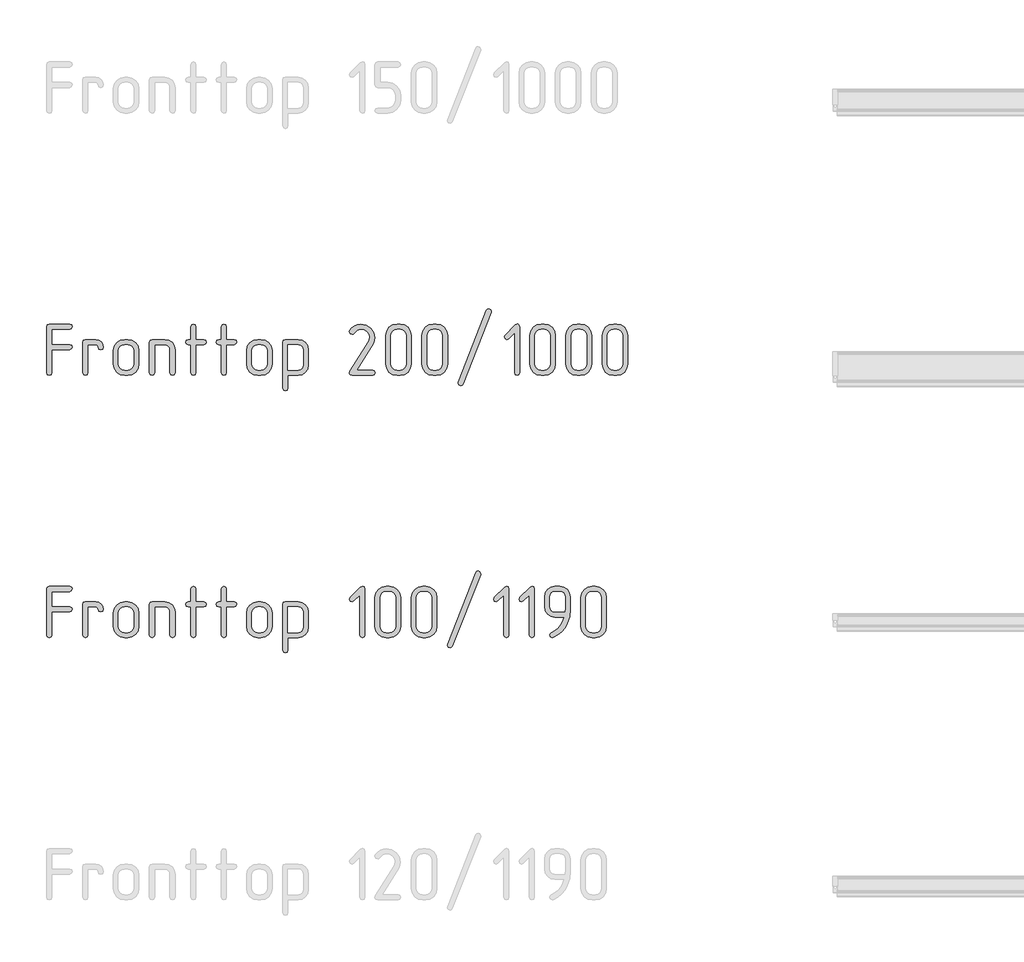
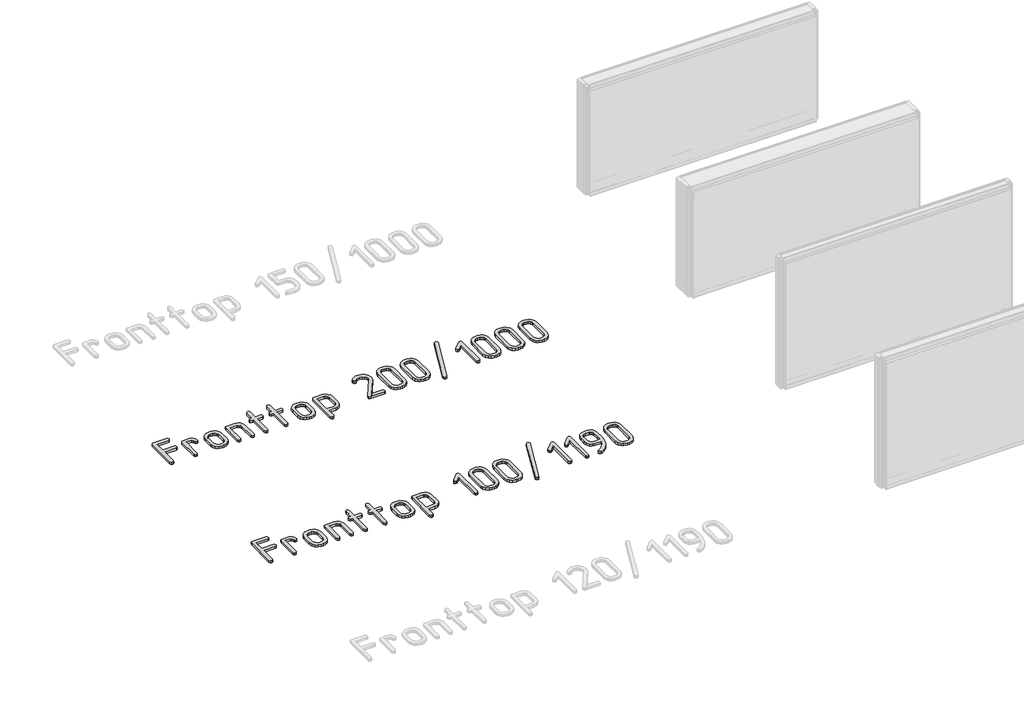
# One storey, part 16 of 37: 2 proxies.
"""IFC4 building model written with IfcOpenShell, lengths in millimetres."""

from ifc_helpers import new_model, si_unit, origin, origin_with_axes, place, context, project, spatial, polyline, outline, extrude, element, save

model = new_model("IFC4")

# Units and contexts
model_context = context("Model", 3, world=origin())
ifc_project = project(units=[si_unit("LENGTHUNIT", "METRE", prefix="MILLI")], contexts=[model_context])

# Site, building, storey
site = spatial("IfcSite", under=ifc_project)
building = spatial("IfcBuilding", under=site)
storey = spatial("IfcBuildingStorey", under=building, Name="Этаж 01", Elevation=0.0)

# Proxies
placement = place(None, origin())
element("IfcBuildingElementProxy", 1, Name="300 мм ГОСТ 2.304", ObjectType="300 мм ГОСТ 2.304", at=placement, inside=storey, context=model_context, shape_type="SweptSolid", body=[
    extrude(outline(polyline([(56161.9989869, -23551.9738322), (56264.4173344, -23551.9738322), (56275.3434297, -23556.0573223), (56278.9854614, -23566.5419592), (56275.1227005, -23577.0633842), (56264.4173344, -23581.5515446), (56161.9989869, -23581.5515446), (56161.9989869, -23713.5476044), (56157.9154968, -23724.4736997), (56147.4308599, -23728.1157314), (56136.9094349, -23724.2529705), (56132.4212745, -23713.5476044), (56132.4212745, -23449.9969431), (56136.1736709, -23438.739754), (56147.4308599, -23434.9873577), (56264.4173344, -23434.9873577), (56275.3434297, -23439.291577), (56278.9854614, -23449.9969431), (56275.1227005, -23460.0769098), (56264.4173344, -23464.5650701), (56161.9989869, -23464.5650701), (56161.9989869, -23551.9738322)])), origin_with_axes(), (0.0, 0.0, 1.0), 20.0),
    extrude(outline(polyline([(56457.0403471, -23566.9834176), (56452.9568569, -23577.9095128), (56442.4722201, -23581.5515446), (56431.950795, -23577.6887836), (56427.4626347, -23566.9834176), (56423.3791445, -23556.7195099), (56412.8945077, -23552.4152905), (56369.1901266, -23552.4152905), (56369.1901266, -23713.5476044), (56365.1066365, -23724.4736997), (56354.6219996, -23728.1157314), (56344.1005746, -23724.2529705), (56339.6124142, -23713.5476044), (56339.6124142, -23537.8471635), (56343.3648106, -23526.9210683), (56354.6219996, -23523.2790365), (56412.8945077, -23523.2790365), (56430.0378086, -23526.7003391), (56444.2012654, -23536.1181182), (56453.6190445, -23550.0608458), (56457.0403471, -23566.9834176)])), origin_with_axes(), (0.0, 0.0, 1.0), 20.0),
    extrude(outline(polyline([(56660.405514, -23663.8099587), (56655.6966245, -23688.7891462), (56641.5699559, -23709.7216317), (56620.9685641, -23723.5172065), (56596.0997413, -23728.1157314), (56578.5149819, -23728.1157314), (56553.5909767, -23723.5172065), (56532.6768853, -23709.7216317), (56518.5502167, -23688.7891462), (56513.8413271, -23663.8099587), (56513.8413271, -23587.5848093), (56518.5502167, -23562.9367156), (56532.6768853, -23542.1145947), (56553.9956469, -23527.9879261), (56578.5149819, -23523.2790365), (56596.0997413, -23523.2790365), (56620.7386379, -23527.9971231), (56641.5331677, -23542.1513829), (56655.6874274, -23562.9459127), (56660.405514, -23587.5848093), (56660.405514, -23663.8099587)]), holes=[polyline([(56631.26926, -23663.8099587), (56631.26926, -23587.5848093), (56628.694086, -23574.0835401), (56620.9685641, -23562.7159864), (56609.6010105, -23554.9904645), (56596.0997413, -23552.4152905), (56578.5149819, -23552.4152905), (56565.0229097, -23554.9904645), (56553.6829472, -23562.7159864), (56545.9850165, -23574.0835401), (56543.4190395, -23587.5848093), (56543.4190395, -23663.8099587), (56545.9850165, -23677.3112279), (56553.6829472, -23688.6787816), (56565.0229097, -23696.4043035), (56578.5149819, -23698.9794774), (56596.0997413, -23698.9794774), (56609.6010105, -23696.4043035), (56620.9685641, -23688.6787816), (56628.694086, -23677.3112279), (56631.26926, -23663.8099587)])]), origin_with_axes(), (0.0, 0.0, 1.0), 20.0),
    extrude(outline(polyline([(56867.5966537, -23713.5476044), (56863.5131635, -23724.4736997), (56853.0285267, -23728.1157314), (56842.7278308, -23724.2529705), (56838.4603997, -23713.5476044), (56838.4603997, -23581.5515446), (56836.3174871, -23570.4139172), (56829.8887492, -23560.986941), (56820.3514085, -23554.5582032), (56808.8826873, -23552.4152905), (56750.6101792, -23552.4152905), (56750.6101792, -23713.5476044), (56746.5266891, -23724.4736997), (56736.0420522, -23728.1157314), (56725.5206272, -23724.2529705), (56721.0324668, -23713.5476044), (56721.0324668, -23537.8471635), (56724.7848632, -23526.9210683), (56736.0420522, -23523.2790365), (56808.8826873, -23523.2790365), (56831.7097651, -23527.4544972), (56850.4533527, -23539.9808791), (56863.3108285, -23558.945196), (56867.5966537, -23581.5515446), (56867.5966537, -23713.5476044)])), origin_with_axes(), (0.0, 0.0, 1.0), 20.0),
    extrude(outline(polyline([(56986.9375729, -23523.2790365), (57031.0834124, -23523.2790365), (57042.0095076, -23527.3625267), (57045.6515394, -23537.8471635), (57041.7887784, -23547.9271302), (57031.0834124, -23552.4152905), (56986.9375729, -23552.4152905), (56986.9375729, -23713.5476044), (56982.8540828, -23724.4736997), (56972.3694459, -23728.1157314), (56962.0687501, -23724.2529705), (56957.8013189, -23713.5476044), (56957.8013189, -23552.4152905), (56943.2331919, -23552.4152905), (56932.3070966, -23548.1478594), (56928.2236065, -23537.8471635), (56932.0863675, -23527.5832559), (56943.2331919, -23523.2790365), (56957.8013189, -23523.2790365), (56957.8013189, -23449.9969431), (56962.0687501, -23439.0708478), (56972.3694459, -23434.9873577), (56982.6333536, -23438.8501186), (56986.9375729, -23449.9969431), (56986.9375729, -23523.2790365)])), origin_with_axes(), (0.0, 0.0, 1.0), 20.0),
    extrude(outline(polyline([(57161.1664858, -23523.2790365), (57205.3123253, -23523.2790365), (57216.2384205, -23527.3625267), (57219.8804523, -23537.8471635), (57216.0176913, -23547.9271302), (57205.3123253, -23552.4152905), (57161.1664858, -23552.4152905), (57161.1664858, -23713.5476044), (57157.0829957, -23724.4736997), (57146.5983588, -23728.1157314), (57136.297663, -23724.2529705), (57132.0302318, -23713.5476044), (57132.0302318, -23552.4152905), (57117.4621048, -23552.4152905), (57106.5360096, -23548.1478594), (57102.4525194, -23537.8471635), (57106.3152804, -23527.5832559), (57117.4621048, -23523.2790365), (57132.0302318, -23523.2790365), (57132.0302318, -23449.9969431), (57136.297663, -23439.0708478), (57146.5983588, -23434.9873577), (57156.8622665, -23438.8501186), (57161.1664858, -23449.9969431), (57161.1664858, -23523.2790365)])), origin_with_axes(), (0.0, 0.0, 1.0), 20.0),
    extrude(outline(polyline([(57423.2456192, -23663.8099587), (57418.5367297, -23688.7891462), (57404.4100611, -23709.7216317), (57383.8086693, -23723.5172065), (57358.9398465, -23728.1157314), (57341.3550871, -23728.1157314), (57316.4310819, -23723.5172065), (57295.5169905, -23709.7216317), (57281.3903219, -23688.7891462), (57276.6814323, -23663.8099587), (57276.6814323, -23587.5848093), (57281.3903219, -23562.9367156), (57295.5169905, -23542.1145947), (57316.8357521, -23527.9879261), (57341.3550871, -23523.2790365), (57358.9398465, -23523.2790365), (57383.5787431, -23527.9971231), (57404.3732729, -23542.1513829), (57418.5275326, -23562.9459127), (57423.2456192, -23587.5848093), (57423.2456192, -23663.8099587)]), holes=[polyline([(57394.1093652, -23663.8099587), (57394.1093652, -23587.5848093), (57391.5341912, -23574.0835401), (57383.8086693, -23562.7159864), (57372.4411157, -23554.9904645), (57358.9398465, -23552.4152905), (57341.3550871, -23552.4152905), (57327.8630149, -23554.9904645), (57316.5230524, -23562.7159864), (57308.8251217, -23574.0835401), (57306.2591447, -23587.5848093), (57306.2591447, -23663.8099587), (57308.8251217, -23677.3112279), (57316.5230524, -23688.6787816), (57327.8630149, -23696.4043035), (57341.3550871, -23698.9794774), (57358.9398465, -23698.9794774), (57372.4411157, -23696.4043035), (57383.8086693, -23688.6787816), (57391.5341912, -23677.3112279), (57394.1093652, -23663.8099587)])]), origin_with_axes(), (0.0, 0.0, 1.0), 20.0),
    extrude(outline(polyline([(57513.4502844, -23728.1157314), (57513.4502844, -23801.3978249), (57509.3667943, -23812.3239201), (57498.8821574, -23815.9659519), (57488.3607324, -23812.1031909), (57483.872572, -23801.3978249), (57483.872572, -23537.8471635), (57487.6249684, -23526.9210683), (57498.8821574, -23523.2790365), (57571.7227925, -23523.2790365), (57594.5498703, -23527.4544972), (57613.2934579, -23539.9808791), (57626.1509337, -23558.945196), (57630.4367589, -23581.5515446), (57630.4367589, -23669.401765), (57626.1509337, -23692.3392074), (57613.2934579, -23711.4138889), (57594.5498703, -23723.9402708), (57571.7227925, -23728.1157314), (57513.4502844, -23728.1157314)]), holes=[polyline([(57513.4502844, -23698.9794774), (57571.7227925, -23698.9794774), (57583.1915137, -23696.8365648), (57592.7288544, -23690.4078269), (57599.1575923, -23680.8704862), (57601.3005049, -23669.401765), (57601.3005049, -23581.5515446), (57599.1575923, -23570.4139172), (57592.7288544, -23560.986941), (57583.1915137, -23554.5582032), (57571.7227925, -23552.4152905), (57513.4502844, -23552.4152905), (57513.4502844, -23698.9794774)])]), origin_with_axes(), (0.0, 0.0, 1.0), 20.0),
    extrude(outline(polyline([(58001.1146572, -23548.1478594), (57906.4218317, -23698.9794774), (57997.2886845, -23698.9794774), (58008.2147797, -23703.0629676), (58011.8568115, -23713.5476044), (58007.9940505, -23723.6275711), (57997.2886845, -23728.1157314), (57880.30221, -23728.1157314), (57868.3828334, -23725.2278578), (57864.4097078, -23716.5642368), (57867.8677986, -23705.3806241), (57975.8779524, -23533.138274), (57981.3961823, -23511.2860835), (57977.7541505, -23493.1862893), (57966.8280553, -23478.3238567), (57950.3285478, -23468.0047668), (57930.8491962, -23464.5650701), (57908.9970056, -23470.5615466), (57892.2951631, -23486.858719), (57887.3839384, -23491.9906728), (57880.30221, -23493.7013241), (57870.0015142, -23489.6546222), (57865.2926246, -23479.5746555), (57867.8677986, -23471.4076752), (57879.6584165, -23456.6923954), (57894.4288786, -23445.0673244), (57911.1307212, -23437.5073494), (57928.7154806, -23434.9873577), (57960.0958148, -23440.7814991), (57986.5465302, -23458.1639234), (58004.5359598, -23483.0327463), (58010.5324363, -23512.1690003), (58008.1779915, -23530.5814941), (58001.1146572, -23548.1478594)])), origin_with_axes(), (0.0, 0.0, 1.0), 20.0),
    extrude(outline(polyline([(58219.0479512, -23663.8099587), (58214.3390616, -23688.7891462), (58200.212393, -23709.7216317), (58179.6110013, -23723.5172065), (58154.7421784, -23728.1157314), (58137.1574191, -23728.1157314), (58112.2334139, -23723.5172065), (58091.3193225, -23709.7216317), (58077.1926538, -23688.7891462), (58072.4837643, -23663.8099587), (58072.4837643, -23499.7345888), (58077.1926538, -23475.0864952), (58091.3193225, -23454.2643742), (58112.4173549, -23439.8066118), (58137.1574191, -23434.9873577), (58154.7421784, -23434.9873577), (58179.381075, -23439.7054443), (58200.1756048, -23453.859704), (58214.3298646, -23474.7645984), (58219.0479512, -23499.7345888), (58219.0479512, -23663.8099587)]), holes=[polyline([(58189.9116972, -23663.8099587), (58189.9116972, -23499.7345888), (58187.3365232, -23486.2333196), (58179.6110013, -23474.865766), (58168.2434476, -23467.1402441), (58154.7421784, -23464.5650701), (58137.1574191, -23464.5650701), (58123.6653469, -23467.1402441), (58112.3253844, -23474.865766), (58104.6274536, -23486.2333196), (58102.0614767, -23499.7345888), (58102.0614767, -23663.8099587), (58104.6274536, -23677.3112279), (58112.3253844, -23688.6787816), (58123.6653469, -23696.4043035), (58137.1574191, -23698.9794774), (58154.7421784, -23698.9794774), (58168.2434476, -23696.4043035), (58179.6110013, -23688.6787816), (58187.3365232, -23677.3112279), (58189.9116972, -23663.8099587)])]), origin_with_axes(), (0.0, 0.0, 1.0), 20.0),
    extrude(outline(polyline([(58426.2390909, -23663.8099587), (58421.5302013, -23688.7891462), (58407.4035327, -23709.7216317), (58386.802141, -23723.5172065), (58361.9333181, -23728.1157314), (58344.3485587, -23728.1157314), (58319.4245536, -23723.5172065), (58298.5104621, -23709.7216317), (58284.3837935, -23688.7891462), (58279.674904, -23663.8099587), (58279.674904, -23499.7345888), (58284.3837935, -23475.0864952), (58298.5104621, -23454.2643742), (58319.6084946, -23439.8066118), (58344.3485587, -23434.9873577), (58361.9333181, -23434.9873577), (58386.5722147, -23439.7054443), (58407.3667445, -23453.859704), (58421.5210043, -23474.7645984), (58426.2390909, -23499.7345888), (58426.2390909, -23663.8099587)]), holes=[polyline([(58397.1028368, -23663.8099587), (58397.1028368, -23499.7345888), (58394.5276629, -23486.2333196), (58386.802141, -23474.865766), (58375.4345873, -23467.1402441), (58361.9333181, -23464.5650701), (58344.3485587, -23464.5650701), (58330.8564866, -23467.1402441), (58319.5165241, -23474.865766), (58311.8185933, -23486.2333196), (58309.2526164, -23499.7345888), (58309.2526164, -23663.8099587), (58311.8185933, -23677.3112279), (58319.5165241, -23688.6787816), (58330.8564866, -23696.4043035), (58344.3485587, -23698.9794774), (58361.9333181, -23698.9794774), (58375.4345873, -23696.4043035), (58386.802141, -23688.6787816), (58394.5276629, -23677.3112279), (58397.1028368, -23663.8099587)])]), origin_with_axes(), (0.0, 0.0, 1.0), 20.0),
    extrude(outline(polyline([(58676.6931532, -23367.2970706), (58515.5608393, -23777.4119188), (58510.0058212, -23784.2545239), (58502.3170875, -23786.8296979), (58491.5749332, -23782.7462077), (58486.8660437, -23772.2615709), (58487.7489605, -23766.6697645), (58648.8812743, -23356.6284927), (58654.4362925, -23349.7123112), (58662.1250262, -23347.1371372), (58672.8671804, -23351.4413566), (58677.57607, -23361.7052642), (58676.6931532, -23367.2970706)])), origin_with_axes(), (0.0, 0.0, 1.0), 20.0),
    extrude(outline(polyline([(58838.4140783, -23713.5476044), (58834.3305881, -23724.4736997), (58823.8459512, -23728.1157314), (58813.7659846, -23724.2529705), (58809.2778242, -23713.5476044), (58809.2778242, -23485.1664618), (58775.4326807, -23518.570147), (58765.5734432, -23523.2790365), (58755.0520182, -23518.7908762), (58750.5638578, -23508.2694511), (58755.2727473, -23498.0423317), (58813.5452554, -23439.6962472), (58826.4211252, -23433.2951005), (58834.9927757, -23437.5993199), (58838.4140783, -23449.9969431), (58838.4140783, -23713.5476044)])), origin_with_axes(), (0.0, 0.0, 1.0), 20.0),
    extrude(outline(polyline([(59043.1036204, -23663.8099587), (59038.3947308, -23688.7891462), (59024.2680622, -23709.7216317), (59003.6666705, -23723.5172065), (58978.7978476, -23728.1157314), (58961.2130882, -23728.1157314), (58936.2890831, -23723.5172065), (58915.3749916, -23709.7216317), (58901.248323, -23688.7891462), (58896.5394335, -23663.8099587), (58896.5394335, -23499.7345888), (58901.248323, -23475.0864952), (58915.3749916, -23454.2643742), (58936.4730241, -23439.8066118), (58961.2130882, -23434.9873577), (58978.7978476, -23434.9873577), (59003.4367442, -23439.7054443), (59024.231274, -23453.859704), (59038.3855338, -23474.7645984), (59043.1036204, -23499.7345888), (59043.1036204, -23663.8099587)]), holes=[polyline([(59013.9673664, -23663.8099587), (59013.9673664, -23499.7345888), (59011.3921924, -23486.2333196), (59003.6666705, -23474.865766), (58992.2991168, -23467.1402441), (58978.7978476, -23464.5650701), (58961.2130882, -23464.5650701), (58947.7210161, -23467.1402441), (58936.3810536, -23474.865766), (58928.6831228, -23486.2333196), (58926.1171459, -23499.7345888), (58926.1171459, -23663.8099587), (58928.6831228, -23677.3112279), (58936.3810536, -23688.6787816), (58947.7210161, -23696.4043035), (58961.2130882, -23698.9794774), (58978.7978476, -23698.9794774), (58992.2991168, -23696.4043035), (59003.6666705, -23688.6787816), (59011.3921924, -23677.3112279), (59013.9673664, -23663.8099587)])]), origin_with_axes(), (0.0, 0.0, 1.0), 20.0),
    extrude(outline(polyline([(59250.2947601, -23663.8099587), (59245.5858705, -23688.7891462), (59231.4592019, -23709.7216317), (59210.8578102, -23723.5172065), (59185.9889873, -23728.1157314), (59168.4042279, -23728.1157314), (59143.4802228, -23723.5172065), (59122.5661313, -23709.7216317), (59108.4394627, -23688.7891462), (59103.7305732, -23663.8099587), (59103.7305732, -23499.7345888), (59108.4394627, -23475.0864952), (59122.5661313, -23454.2643742), (59143.6641638, -23439.8066118), (59168.4042279, -23434.9873577), (59185.9889873, -23434.9873577), (59210.6278839, -23439.7054443), (59231.4224137, -23453.859704), (59245.5766735, -23474.7645984), (59250.2947601, -23499.7345888), (59250.2947601, -23663.8099587)]), holes=[polyline([(59221.158506, -23663.8099587), (59221.158506, -23499.7345888), (59218.5833321, -23486.2333196), (59210.8578102, -23474.865766), (59199.4902565, -23467.1402441), (59185.9889873, -23464.5650701), (59168.4042279, -23464.5650701), (59154.9121558, -23467.1402441), (59143.5721933, -23474.865766), (59135.8742625, -23486.2333196), (59133.3082856, -23499.7345888), (59133.3082856, -23663.8099587), (59135.8742625, -23677.3112279), (59143.5721933, -23688.6787816), (59154.9121558, -23696.4043035), (59168.4042279, -23698.9794774), (59185.9889873, -23698.9794774), (59199.4902565, -23696.4043035), (59210.8578102, -23688.6787816), (59218.5833321, -23677.3112279), (59221.158506, -23663.8099587)])]), origin_with_axes(), (0.0, 0.0, 1.0), 20.0),
    extrude(outline(polyline([(59457.4858997, -23663.8099587), (59452.7770102, -23688.7891462), (59438.6503416, -23709.7216317), (59418.0489499, -23723.5172065), (59393.180127, -23728.1157314), (59375.5953676, -23728.1157314), (59350.6713624, -23723.5172065), (59329.757271, -23709.7216317), (59315.6306024, -23688.7891462), (59310.9217129, -23663.8099587), (59310.9217129, -23499.7345888), (59315.6306024, -23475.0864952), (59329.757271, -23454.2643742), (59350.8553034, -23439.8066118), (59375.5953676, -23434.9873577), (59393.180127, -23434.9873577), (59417.8190236, -23439.7054443), (59438.6135534, -23453.859704), (59452.7678132, -23474.7645984), (59457.4858997, -23499.7345888), (59457.4858997, -23663.8099587)]), holes=[polyline([(59428.3496457, -23663.8099587), (59428.3496457, -23499.7345888), (59425.7744718, -23486.2333196), (59418.0489499, -23474.865766), (59406.6813962, -23467.1402441), (59393.180127, -23464.5650701), (59375.5953676, -23464.5650701), (59362.1032954, -23467.1402441), (59350.7633329, -23474.865766), (59343.0654022, -23486.2333196), (59340.4994253, -23499.7345888), (59340.4994253, -23663.8099587), (59343.0654022, -23677.3112279), (59350.7633329, -23688.6787816), (59362.1032954, -23696.4043035), (59375.5953676, -23698.9794774), (59393.180127, -23698.9794774), (59406.6813962, -23696.4043035), (59418.0489499, -23688.6787816), (59425.7744718, -23677.3112279), (59428.3496457, -23663.8099587)])]), origin_with_axes(), (0.0, 0.0, 1.0), 20.0),
])
element("IfcBuildingElementProxy", 2, Name="300 мм ГОСТ 2.304", ObjectType="300 мм ГОСТ 2.304", at=placement, inside=storey, context=model_context, shape_type="SweptSolid", body=[
    extrude(outline(polyline([(56161.9989869, -25051.9738322), (56264.4173344, -25051.9738322), (56275.3434297, -25056.0573223), (56278.9854614, -25066.5419592), (56275.1227005, -25077.0633842), (56264.4173344, -25081.5515446), (56161.9989869, -25081.5515446), (56161.9989869, -25213.5476044), (56157.9154968, -25224.4736997), (56147.4308599, -25228.1157314), (56136.9094349, -25224.2529705), (56132.4212745, -25213.5476044), (56132.4212745, -24949.9969431), (56136.1736709, -24938.739754), (56147.4308599, -24934.9873577), (56264.4173344, -24934.9873577), (56275.3434297, -24939.291577), (56278.9854614, -24949.9969431), (56275.1227005, -24960.0769098), (56264.4173344, -24964.5650701), (56161.9989869, -24964.5650701), (56161.9989869, -25051.9738322)])), origin_with_axes(), (0.0, 0.0, 1.0), 20.0),
    extrude(outline(polyline([(56457.0403471, -25066.9834176), (56452.9568569, -25077.9095128), (56442.4722201, -25081.5515446), (56431.950795, -25077.6887836), (56427.4626347, -25066.9834176), (56423.3791445, -25056.7195099), (56412.8945077, -25052.4152905), (56369.1901266, -25052.4152905), (56369.1901266, -25213.5476044), (56365.1066365, -25224.4736997), (56354.6219996, -25228.1157314), (56344.1005746, -25224.2529705), (56339.6124142, -25213.5476044), (56339.6124142, -25037.8471635), (56343.3648106, -25026.9210683), (56354.6219996, -25023.2790365), (56412.8945077, -25023.2790365), (56430.0378086, -25026.7003391), (56444.2012654, -25036.1181182), (56453.6190445, -25050.0608458), (56457.0403471, -25066.9834176)])), origin_with_axes(), (0.0, 0.0, 1.0), 20.0),
    extrude(outline(polyline([(56660.405514, -25163.8099587), (56655.6966245, -25188.7891462), (56641.5699559, -25209.7216317), (56620.9685641, -25223.5172065), (56596.0997413, -25228.1157314), (56578.5149819, -25228.1157314), (56553.5909767, -25223.5172065), (56532.6768853, -25209.7216317), (56518.5502167, -25188.7891462), (56513.8413271, -25163.8099587), (56513.8413271, -25087.5848093), (56518.5502167, -25062.9367156), (56532.6768853, -25042.1145947), (56553.9956469, -25027.9879261), (56578.5149819, -25023.2790365), (56596.0997413, -25023.2790365), (56620.7386379, -25027.9971231), (56641.5331677, -25042.1513829), (56655.6874274, -25062.9459127), (56660.405514, -25087.5848093), (56660.405514, -25163.8099587)]), holes=[polyline([(56631.26926, -25163.8099587), (56631.26926, -25087.5848093), (56628.694086, -25074.0835401), (56620.9685641, -25062.7159864), (56609.6010105, -25054.9904645), (56596.0997413, -25052.4152905), (56578.5149819, -25052.4152905), (56565.0229097, -25054.9904645), (56553.6829472, -25062.7159864), (56545.9850165, -25074.0835401), (56543.4190395, -25087.5848093), (56543.4190395, -25163.8099587), (56545.9850165, -25177.3112279), (56553.6829472, -25188.6787816), (56565.0229097, -25196.4043035), (56578.5149819, -25198.9794774), (56596.0997413, -25198.9794774), (56609.6010105, -25196.4043035), (56620.9685641, -25188.6787816), (56628.694086, -25177.3112279), (56631.26926, -25163.8099587)])]), origin_with_axes(), (0.0, 0.0, 1.0), 20.0),
    extrude(outline(polyline([(56867.5966537, -25213.5476044), (56863.5131635, -25224.4736997), (56853.0285267, -25228.1157314), (56842.7278308, -25224.2529705), (56838.4603997, -25213.5476044), (56838.4603997, -25081.5515446), (56836.3174871, -25070.4139172), (56829.8887492, -25060.986941), (56820.3514085, -25054.5582032), (56808.8826873, -25052.4152905), (56750.6101792, -25052.4152905), (56750.6101792, -25213.5476044), (56746.5266891, -25224.4736997), (56736.0420522, -25228.1157314), (56725.5206272, -25224.2529705), (56721.0324668, -25213.5476044), (56721.0324668, -25037.8471635), (56724.7848632, -25026.9210683), (56736.0420522, -25023.2790365), (56808.8826873, -25023.2790365), (56831.7097651, -25027.4544972), (56850.4533527, -25039.9808791), (56863.3108285, -25058.945196), (56867.5966537, -25081.5515446), (56867.5966537, -25213.5476044)])), origin_with_axes(), (0.0, 0.0, 1.0), 20.0),
    extrude(outline(polyline([(56986.9375729, -25023.2790365), (57031.0834124, -25023.2790365), (57042.0095076, -25027.3625267), (57045.6515394, -25037.8471635), (57041.7887784, -25047.9271302), (57031.0834124, -25052.4152905), (56986.9375729, -25052.4152905), (56986.9375729, -25213.5476044), (56982.8540828, -25224.4736997), (56972.3694459, -25228.1157314), (56962.0687501, -25224.2529705), (56957.8013189, -25213.5476044), (56957.8013189, -25052.4152905), (56943.2331919, -25052.4152905), (56932.3070966, -25048.1478594), (56928.2236065, -25037.8471635), (56932.0863675, -25027.5832559), (56943.2331919, -25023.2790365), (56957.8013189, -25023.2790365), (56957.8013189, -24949.9969431), (56962.0687501, -24939.0708478), (56972.3694459, -24934.9873577), (56982.6333536, -24938.8501186), (56986.9375729, -24949.9969431), (56986.9375729, -25023.2790365)])), origin_with_axes(), (0.0, 0.0, 1.0), 20.0),
    extrude(outline(polyline([(57161.1664858, -25023.2790365), (57205.3123253, -25023.2790365), (57216.2384205, -25027.3625267), (57219.8804523, -25037.8471635), (57216.0176913, -25047.9271302), (57205.3123253, -25052.4152905), (57161.1664858, -25052.4152905), (57161.1664858, -25213.5476044), (57157.0829957, -25224.4736997), (57146.5983588, -25228.1157314), (57136.297663, -25224.2529705), (57132.0302318, -25213.5476044), (57132.0302318, -25052.4152905), (57117.4621048, -25052.4152905), (57106.5360096, -25048.1478594), (57102.4525194, -25037.8471635), (57106.3152804, -25027.5832559), (57117.4621048, -25023.2790365), (57132.0302318, -25023.2790365), (57132.0302318, -24949.9969431), (57136.297663, -24939.0708478), (57146.5983588, -24934.9873577), (57156.8622665, -24938.8501186), (57161.1664858, -24949.9969431), (57161.1664858, -25023.2790365)])), origin_with_axes(), (0.0, 0.0, 1.0), 20.0),
    extrude(outline(polyline([(57423.2456192, -25163.8099587), (57418.5367297, -25188.7891462), (57404.4100611, -25209.7216317), (57383.8086693, -25223.5172065), (57358.9398465, -25228.1157314), (57341.3550871, -25228.1157314), (57316.4310819, -25223.5172065), (57295.5169905, -25209.7216317), (57281.3903219, -25188.7891462), (57276.6814323, -25163.8099587), (57276.6814323, -25087.5848093), (57281.3903219, -25062.9367156), (57295.5169905, -25042.1145947), (57316.8357521, -25027.9879261), (57341.3550871, -25023.2790365), (57358.9398465, -25023.2790365), (57383.5787431, -25027.9971231), (57404.3732729, -25042.1513829), (57418.5275326, -25062.9459127), (57423.2456192, -25087.5848093), (57423.2456192, -25163.8099587)]), holes=[polyline([(57394.1093652, -25163.8099587), (57394.1093652, -25087.5848093), (57391.5341912, -25074.0835401), (57383.8086693, -25062.7159864), (57372.4411157, -25054.9904645), (57358.9398465, -25052.4152905), (57341.3550871, -25052.4152905), (57327.8630149, -25054.9904645), (57316.5230524, -25062.7159864), (57308.8251217, -25074.0835401), (57306.2591447, -25087.5848093), (57306.2591447, -25163.8099587), (57308.8251217, -25177.3112279), (57316.5230524, -25188.6787816), (57327.8630149, -25196.4043035), (57341.3550871, -25198.9794774), (57358.9398465, -25198.9794774), (57372.4411157, -25196.4043035), (57383.8086693, -25188.6787816), (57391.5341912, -25177.3112279), (57394.1093652, -25163.8099587)])]), origin_with_axes(), (0.0, 0.0, 1.0), 20.0),
    extrude(outline(polyline([(57513.4502844, -25228.1157314), (57513.4502844, -25301.3978249), (57509.3667943, -25312.3239201), (57498.8821574, -25315.9659519), (57488.3607324, -25312.1031909), (57483.872572, -25301.3978249), (57483.872572, -25037.8471635), (57487.6249684, -25026.9210683), (57498.8821574, -25023.2790365), (57571.7227925, -25023.2790365), (57594.5498703, -25027.4544972), (57613.2934579, -25039.9808791), (57626.1509337, -25058.945196), (57630.4367589, -25081.5515446), (57630.4367589, -25169.401765), (57626.1509337, -25192.3392074), (57613.2934579, -25211.4138889), (57594.5498703, -25223.9402708), (57571.7227925, -25228.1157314), (57513.4502844, -25228.1157314)]), holes=[polyline([(57513.4502844, -25198.9794774), (57571.7227925, -25198.9794774), (57583.1915137, -25196.8365648), (57592.7288544, -25190.4078269), (57599.1575923, -25180.8704862), (57601.3005049, -25169.401765), (57601.3005049, -25081.5515446), (57599.1575923, -25070.4139172), (57592.7288544, -25060.986941), (57583.1915137, -25054.5582032), (57571.7227925, -25052.4152905), (57513.4502844, -25052.4152905), (57513.4502844, -25198.9794774)])]), origin_with_axes(), (0.0, 0.0, 1.0), 20.0),
    extrude(outline(polyline([(57953.1428451, -25213.5476044), (57949.0593549, -25224.4736997), (57938.5747181, -25228.1157314), (57928.4947514, -25224.2529705), (57924.006591, -25213.5476044), (57924.006591, -24985.1664618), (57890.1614475, -25018.570147), (57880.30221, -25023.2790365), (57869.780785, -25018.7908762), (57865.2926246, -25008.2694511), (57870.0015142, -24998.0423317), (57928.2740222, -24939.6962472), (57941.149892, -24933.2951005), (57949.7215425, -24937.5993199), (57953.1428451, -24949.9969431), (57953.1428451, -25213.5476044)])), origin_with_axes(), (0.0, 0.0, 1.0), 20.0),
    extrude(outline(polyline([(58157.8323872, -25163.8099587), (58153.1234976, -25188.7891462), (58138.996829, -25209.7216317), (58118.3954373, -25223.5172065), (58093.5266144, -25228.1157314), (58075.9418551, -25228.1157314), (58051.0178499, -25223.5172065), (58030.1037585, -25209.7216317), (58015.9770898, -25188.7891462), (58011.2682003, -25163.8099587), (58011.2682003, -24999.7345888), (58015.9770898, -24975.0864952), (58030.1037585, -24954.2643742), (58051.2017909, -24939.8066118), (58075.9418551, -24934.9873577), (58093.5266144, -24934.9873577), (58118.1655111, -24939.7054443), (58138.9600408, -24953.859704), (58153.1143006, -24974.7645984), (58157.8323872, -24999.7345888), (58157.8323872, -25163.8099587)]), holes=[polyline([(58128.6961332, -25163.8099587), (58128.6961332, -24999.7345888), (58126.1209592, -24986.2333196), (58118.3954373, -24974.865766), (58107.0278836, -24967.1402441), (58093.5266144, -24964.5650701), (58075.9418551, -24964.5650701), (58062.4497829, -24967.1402441), (58051.1098204, -24974.865766), (58043.4118896, -24986.2333196), (58040.8459127, -24999.7345888), (58040.8459127, -25163.8099587), (58043.4118896, -25177.3112279), (58051.1098204, -25188.6787816), (58062.4497829, -25196.4043035), (58075.9418551, -25198.9794774), (58093.5266144, -25198.9794774), (58107.0278836, -25196.4043035), (58118.3954373, -25188.6787816), (58126.1209592, -25177.3112279), (58128.6961332, -25163.8099587)])]), origin_with_axes(), (0.0, 0.0, 1.0), 20.0),
    extrude(outline(polyline([(58365.0235269, -25163.8099587), (58360.3146373, -25188.7891462), (58346.1879687, -25209.7216317), (58325.586577, -25223.5172065), (58300.7177541, -25228.1157314), (58283.1329947, -25228.1157314), (58258.2089896, -25223.5172065), (58237.2948981, -25209.7216317), (58223.1682295, -25188.7891462), (58218.45934, -25163.8099587), (58218.45934, -24999.7345888), (58223.1682295, -24975.0864952), (58237.2948981, -24954.2643742), (58258.3929306, -24939.8066118), (58283.1329947, -24934.9873577), (58300.7177541, -24934.9873577), (58325.3566507, -24939.7054443), (58346.1511805, -24953.859704), (58360.3054403, -24974.7645984), (58365.0235269, -24999.7345888), (58365.0235269, -25163.8099587)]), holes=[polyline([(58335.8872728, -25163.8099587), (58335.8872728, -24999.7345888), (58333.3120989, -24986.2333196), (58325.586577, -24974.865766), (58314.2190233, -24967.1402441), (58300.7177541, -24964.5650701), (58283.1329947, -24964.5650701), (58269.6409226, -24967.1402441), (58258.3009601, -24974.865766), (58250.6030293, -24986.2333196), (58248.0370524, -24999.7345888), (58248.0370524, -25163.8099587), (58250.6030293, -25177.3112279), (58258.3009601, -25188.6787816), (58269.6409226, -25196.4043035), (58283.1329947, -25198.9794774), (58300.7177541, -25198.9794774), (58314.2190233, -25196.4043035), (58325.586577, -25188.6787816), (58333.3120989, -25177.3112279), (58335.8872728, -25163.8099587)])]), origin_with_axes(), (0.0, 0.0, 1.0), 20.0),
    extrude(outline(polyline([(58615.4775892, -24867.2970706), (58454.3452753, -25277.4119188), (58448.7902572, -25284.2545239), (58441.1015235, -25286.8296979), (58430.3593692, -25282.7462077), (58425.6504797, -25272.2615709), (58426.5333965, -25266.6697645), (58587.6657103, -24856.6284927), (58593.2207285, -24849.7123112), (58600.9094622, -24847.1371372), (58611.6516164, -24851.4413566), (58616.360506, -24861.7052642), (58615.4775892, -24867.2970706)])), origin_with_axes(), (0.0, 0.0, 1.0), 20.0),
    extrude(outline(polyline([(58777.1985143, -25213.5476044), (58773.1150241, -25224.4736997), (58762.6303873, -25228.1157314), (58752.5504206, -25224.2529705), (58748.0622602, -25213.5476044), (58748.0622602, -24985.1664618), (58714.2171167, -25018.570147), (58704.3578792, -25023.2790365), (58693.8364542, -25018.7908762), (58689.3482938, -25008.2694511), (58694.0571833, -24998.0423317), (58752.3296914, -24939.6962472), (58765.2055612, -24933.2951005), (58773.7772117, -24937.5993199), (58777.1985143, -24949.9969431), (58777.1985143, -25213.5476044)])), origin_with_axes(), (0.0, 0.0, 1.0), 20.0),
    extrude(outline(polyline([(58923.1740899, -25213.5476044), (58919.0905998, -25224.4736997), (58908.6059629, -25228.1157314), (58898.5259963, -25224.2529705), (58894.0378359, -25213.5476044), (58894.0378359, -24985.1664618), (58860.1926924, -25018.570147), (58850.3334549, -25023.2790365), (58839.8120298, -25018.7908762), (58835.3238695, -25008.2694511), (58840.032759, -24998.0423317), (58898.3052671, -24939.6962472), (58911.1811369, -24933.2951005), (58919.7527874, -24937.5993199), (58923.1740899, -24949.9969431), (58923.1740899, -25213.5476044)])), origin_with_axes(), (0.0, 0.0, 1.0), 20.0),
    extrude(outline(polyline([(59093.1355717, -25111.129257), (59040.0134116, -25111.129257), (59017.407063, -25106.8434317), (58998.4427462, -25093.985956), (58985.5852704, -25075.0216391), (58981.2994452, -25052.4152905), (58981.2994452, -24993.7013241), (58985.5852704, -24971.0949755), (58998.4427462, -24952.1306587), (59017.407063, -24939.2731829), (59040.0134116, -24934.9873577), (59069.1496656, -24934.9873577), (59091.9767434, -24939.2731829), (59110.7203311, -24952.1306587), (59123.5778068, -24971.0949755), (59127.8636321, -24993.7013241), (59127.8636321, -25066.5419592), (59124.0008711, -25107.818319), (59112.4125883, -25145.8573173), (59098.4422695, -25171.7378157), (59079.6343025, -25194.4913171), (59056.871604, -25213.1797224), (59031.0370909, -25226.8649327), (59025.0038262, -25228.1157314), (59014.9606477, -25223.4068419), (59010.8771576, -25212.6646876), (59013.0108732, -25205.1966831), (59019.8534783, -25199.8623942), (59040.7491756, -25188.8995108), (59058.8489698, -25174.1106546), (59073.7297965, -25155.8085253), (59084.9685914, -25134.3058227), (59089.309599, -25122.938269), (59093.1355717, -25111.129257)]), holes=[polyline([(59097.8444613, -25081.1468744), (59098.0651905, -25076.2172556), (59098.5066488, -25064.8864902), (59098.727378, -25039.9808791), (59098.727378, -24993.7013241), (59096.5844654, -24982.2877852), (59090.1557276, -24972.9159914), (59080.6183868, -24966.6528004), (59069.1496656, -24964.5650701), (59040.0134116, -24964.5650701), (59028.5998727, -24966.6528004), (59019.2280789, -24972.9159914), (59012.9648879, -24982.2877852), (59010.8771576, -24993.7013241), (59010.8771576, -25052.4152905), (59012.9648879, -25063.8288294), (59019.2280789, -25073.2006233), (59028.5998727, -25079.4638142), (59040.0134116, -25081.5515446), (59097.8444613, -25081.1468744)])]), origin_with_axes(), (0.0, 0.0, 1.0), 20.0),
    extrude(outline(polyline([(59335.0547717, -25163.8099587), (59330.3458822, -25188.7891462), (59316.2192136, -25209.7216317), (59295.6178219, -25223.5172065), (59270.748999, -25228.1157314), (59253.1642396, -25228.1157314), (59228.2402344, -25223.5172065), (59207.326143, -25209.7216317), (59193.1994744, -25188.7891462), (59188.4905849, -25163.8099587), (59188.4905849, -24999.7345888), (59193.1994744, -24975.0864952), (59207.326143, -24954.2643742), (59228.4241754, -24939.8066118), (59253.1642396, -24934.9873577), (59270.748999, -24934.9873577), (59295.3878956, -24939.7054443), (59316.1824254, -24953.859704), (59330.3366852, -24974.7645984), (59335.0547717, -24999.7345888), (59335.0547717, -25163.8099587)]), holes=[polyline([(59305.9185177, -25163.8099587), (59305.9185177, -24999.7345888), (59303.3433438, -24986.2333196), (59295.6178219, -24974.865766), (59284.2502682, -24967.1402441), (59270.748999, -24964.5650701), (59253.1642396, -24964.5650701), (59239.6721674, -24967.1402441), (59228.3322049, -24974.865766), (59220.6342742, -24986.2333196), (59218.0682973, -24999.7345888), (59218.0682973, -25163.8099587), (59220.6342742, -25177.3112279), (59228.3322049, -25188.6787816), (59239.6721674, -25196.4043035), (59253.1642396, -25198.9794774), (59270.748999, -25198.9794774), (59284.2502682, -25196.4043035), (59295.6178219, -25188.6787816), (59303.3433438, -25177.3112279), (59305.9185177, -25163.8099587)])]), origin_with_axes(), (0.0, 0.0, 1.0), 20.0),
])

save(model, "model.ifc")
